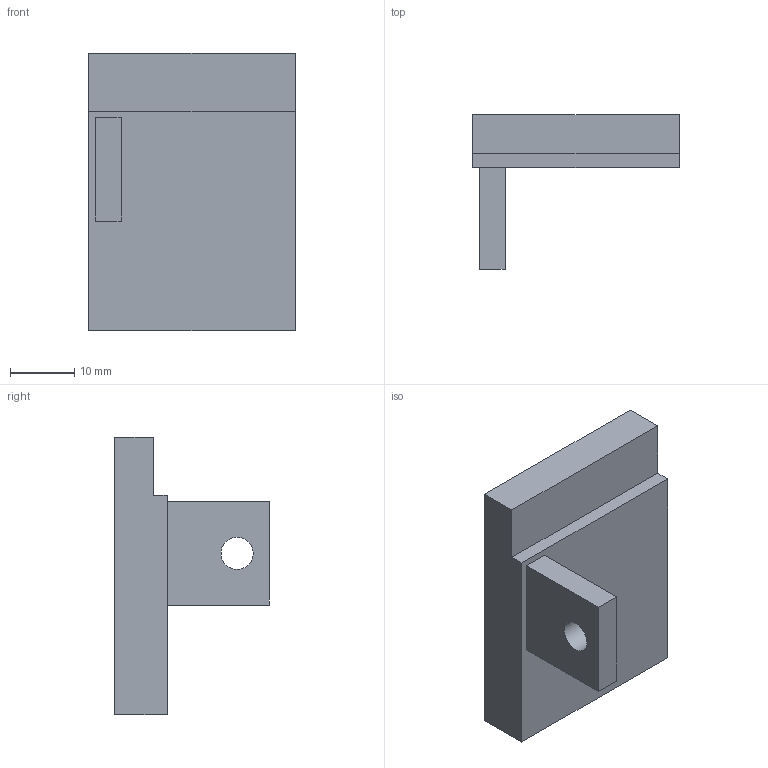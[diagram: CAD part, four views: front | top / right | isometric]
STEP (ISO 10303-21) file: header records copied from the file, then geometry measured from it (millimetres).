
FILE_DESCRIPTION(('Open CASCADE Model'),'2;1');
FILE_NAME('Open CASCADE Shape Model','2026-07-25T17:39:16',('Author'),( 'Open CASCADE'),'Open CASCADE STEP processor 7.9','build123d', 'Unknown');
FILE_SCHEMA(('AUTOMOTIVE_DESIGN { 1 0 10303 214 1 1 1 1 }'));
Length unit declared in the file: millimetre
Products named in the file (1): COMPOUND
Bounding box: 32 x 24 x 43 mm (x, y, z)
Volume: 8245.4 mm3; surface area: 5974.6 mm2
Topology: 1 solids, 1 shells, 22 faces, 54 edges, 36 vertices
Faces by surface type: plane 21, cylinder 1
Full cylindrical faces by diameter (mm): 5 x1
Entity records: 1326 total; most frequent: CARTESIAN_POINT 251, DIRECTION 180, LINE 128, VECTOR 128, ORIENTED_EDGE 108, PCURVE 108, DEFINITIONAL_REPRESENTATION 108, EDGE_CURVE 54
